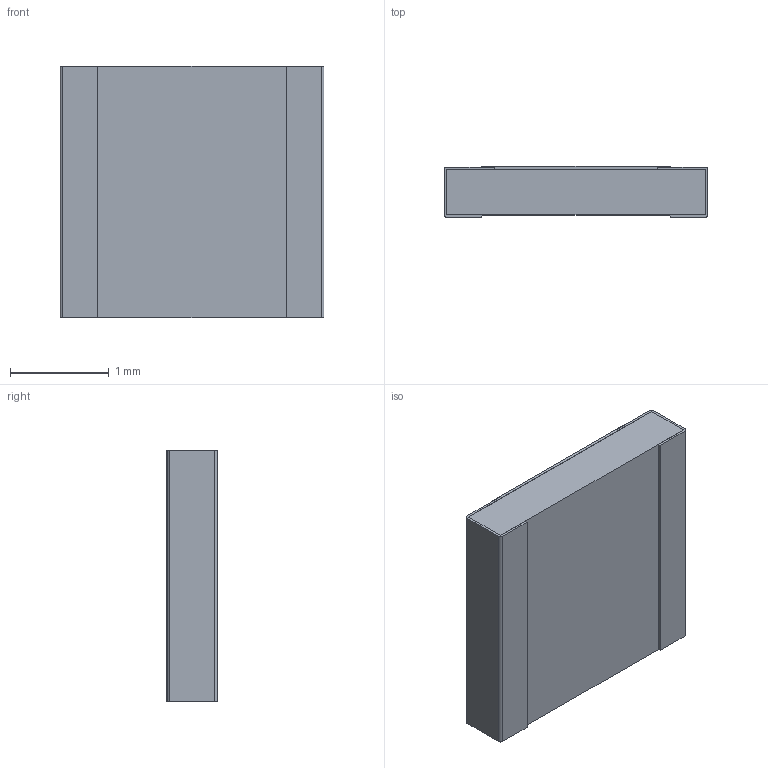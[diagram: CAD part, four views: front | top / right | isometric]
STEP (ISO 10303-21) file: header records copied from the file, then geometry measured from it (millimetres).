
FILE_DESCRIPTION(/* description */ (''),/* implementation_level */ '2;1');
FILE_NAME(/* name */ 'C:\Users\Public\Documents\Autodesk\Inventor LT 2014\Workspace\Vishay\STEP Files\PTN1010.stp',/* time_stamp */ '2020-01-08T14:52:30-06:00',/* author */ ('Neil'),/* organization */ (''),/* preprocessor_version */ 'ST-DEVELOPER v15.2',/* originating_system */ 'Autodesk Inventor LT ',/* authorisation */ '');
FILE_SCHEMA (('AUTOMOTIVE_DESIGN { 1 0 10303 214 3 1 1 }'));
Length unit declared in the file: inch
Products named in the file (1): PTN1010
Bounding box: 2.67 x 0.52 x 2.54 mm (x, y, z)
Volume: 3.4 mm3; surface area: 47.6 mm2
Topology: 5 solids, 5 shells, 98 faces, 264 edges, 176 vertices
Faces by surface type: plane 82, cylinder 16
Entity records: 3090 total; most frequent: CARTESIAN_POINT 539, ORIENTED_EDGE 528, DIRECTION 494, EDGE_CURVE 264, LINE 232, VECTOR 232, VERTEX_POINT 176, AXIS2_PLACEMENT_3D 131
